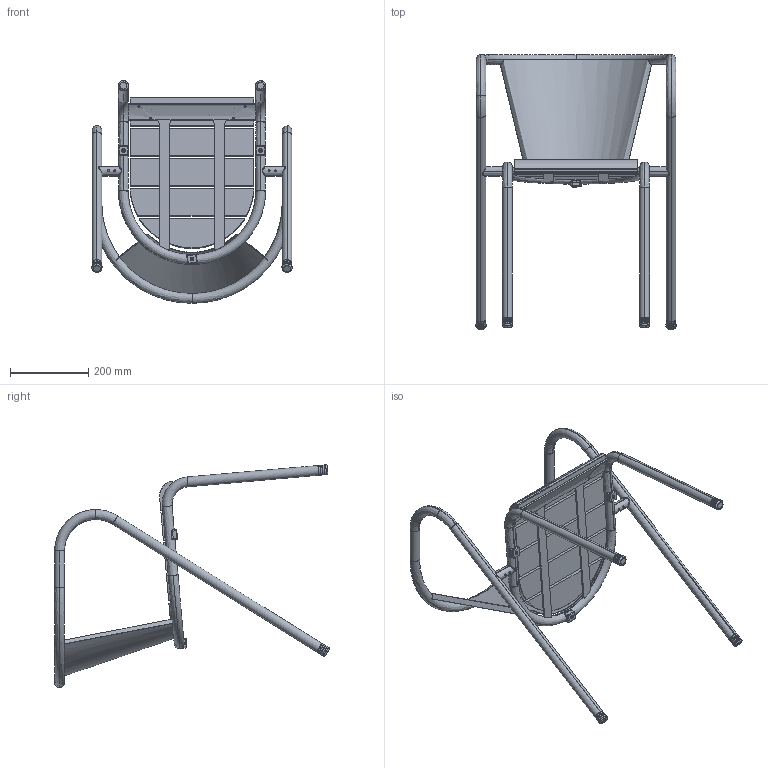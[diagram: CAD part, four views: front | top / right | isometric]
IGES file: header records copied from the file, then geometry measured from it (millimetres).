
Start section: SolidWorks IGES file using analytic representation for surfaces
Global section: file name: \\SRVADICO\Gabinete Tecnico\PARTILHA ID TECNICO\ADICO_2017\HOTELARIA\OUTROS\5008\5008 Revisão\5008_RIPADA\para envio EMAIL\3D\5008_REGUAS_3D.IGS; native system: SolidWorks 2018; preprocessor: SolidWorks 2018; author: emilia; date: 180206.104213; units: millimetre
Bounding box: 511 x 700.56 x 568 mm (x, y, z)
Surface area: 1278438.1 mm2 (no closed solid volume)
Topology: 0 solids, 0 shells, 598 faces, 7566 edges, 7555 vertices
Faces by surface type: bspline 355, revolution 243
